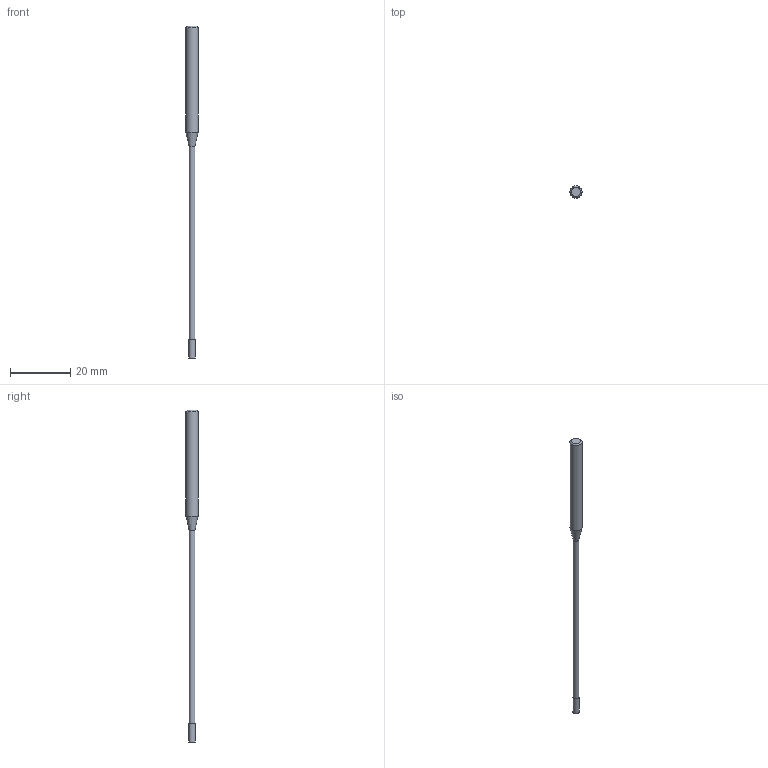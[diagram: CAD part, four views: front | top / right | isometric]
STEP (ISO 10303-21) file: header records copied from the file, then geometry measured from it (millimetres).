
FILE_DESCRIPTION((''),'2;1');
FILE_NAME('C:\Users\nsx150\Desktop\RSE230_20210427\01-00644-02070 RSE230 D2X6X70.step','2021-05-07T14:53:49',(''),(''),'STEP Write','Mastercam 2021 ... CNC Software, Inc.','');
FILE_SCHEMA(('AUTOMOTIVE_DESIGN'));
Length unit declared in the file: millimetre
Products named in the file (1): None
Bounding box: 4 x 4 x 110 mm (x, y, z)
Volume: 683.3 mm3; surface area: 933.5 mm2
Topology: 2 solids, 2 shells, 9 faces, 12 edges, 7 vertices
Faces by surface type: plane 4, cylinder 3, cone 2
Full cylindrical faces by diameter (mm): 1.94 x1, 2 x1, 4 x1
Entity records: 211 total; most frequent: DIRECTION 36, CARTESIAN_POINT 25, AXIS2_PLACEMENT_3D 18, ORIENTED_EDGE 14, EDGE_LOOP 14, STYLED_ITEM 12, ADVANCED_FACE 9, FACE_BOUND 8
